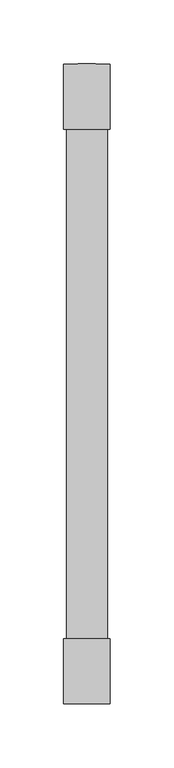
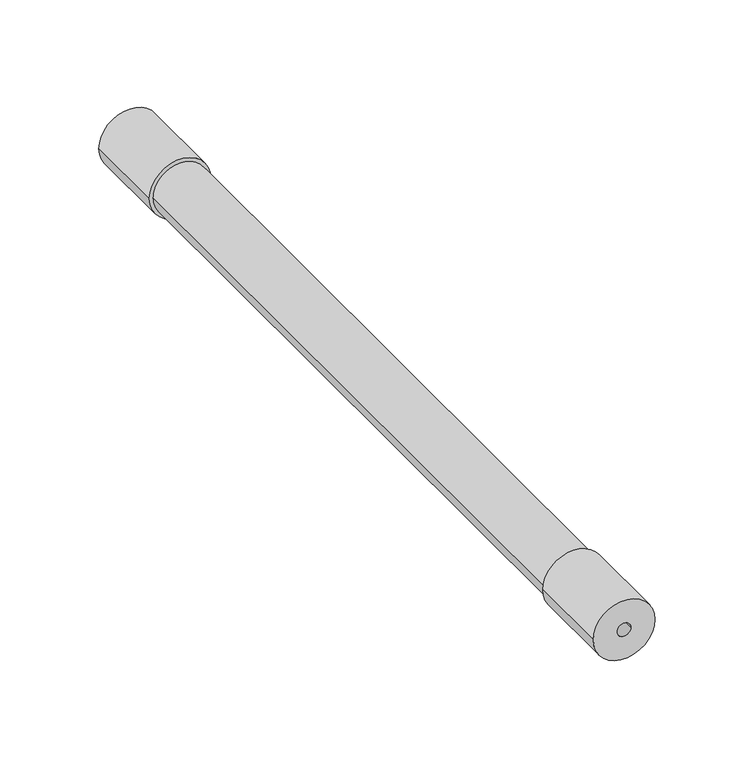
"""IFC4 building model written with IfcOpenShell, lengths in millimetres: proxy geometry, КНС_ШтангаИзоляционная_DKC : NF0500_Стеклопластик_500 мм."""

from ifc_helpers import new_model, si_unit, point, frame, origin, origin_2d, place, context, project, spatial, circle_curve, trimmed, segment, composite_curve, outline, extrude, source, transform, mapped, element, save


def security_devices_3444e8e4(model_context):
    return source(origin(), model_context, "Body", "SweptSolid", [
        extrude(outline(composite_curve([segment(trimmed(circle_curve(origin_2d(), 18.0), [point((0.0, -18.0))], [point((0.0, 18.0))], False, "CARTESIAN"), True, "CONTINUOUS"), segment(trimmed(circle_curve(origin_2d(), 18.0), [point((0.0, 18.0))], [point((0.0, -18.0))], False, "CARTESIAN"), True, "CONTINUOUS")], self_intersect=False), holes=[composite_curve([segment(trimmed(circle_curve(origin_2d(), 4.0), [point((0.0, -4.0))], [point((0.0, 4.0))], True, "CARTESIAN"), True, "CONTINUOUS"), segment(trimmed(circle_curve(origin_2d(), 4.0), [point((0.0, 4.0))], [point((0.0, -4.0))], True, "CARTESIAN"), True, "CONTINUOUS")], self_intersect=False)]), frame((0.0, 449.0, 0.0), z_axis=(0.0, 1.0, 0.0), x_axis=(0.0, 0.0, 1.0)), (0.0, 0.0, 1.0), 51.0),
        extrude(outline(composite_curve([segment(trimmed(circle_curve(origin_2d(), 16.0), [point((0.0, -16.0))], [point((0.0, 16.0))], False, "CARTESIAN"), True, "CONTINUOUS"), segment(trimmed(circle_curve(origin_2d(), 16.0), [point((0.0, 16.0))], [point((0.0, -16.0))], False, "CARTESIAN"), True, "CONTINUOUS")], self_intersect=False)), frame((0.0, 51.0, 0.0), z_axis=(0.0, 1.0, 0.0), x_axis=(0.0, 0.0, 1.0)), (0.0, 0.0, 1.0), 398.0),
        extrude(outline(composite_curve([segment(trimmed(circle_curve(origin_2d(), 18.0), [point((0.0, -18.0))], [point((0.0, 18.0))], False, "CARTESIAN"), True, "CONTINUOUS"), segment(trimmed(circle_curve(origin_2d(), 18.0), [point((0.0, 18.0))], [point((0.0, -18.0))], False, "CARTESIAN"), True, "CONTINUOUS")], self_intersect=False), holes=[composite_curve([segment(trimmed(circle_curve(origin_2d(), 4.0), [point((0.0, -4.0))], [point((0.0, 4.0))], True, "CARTESIAN"), True, "CONTINUOUS"), segment(trimmed(circle_curve(origin_2d(), 4.0), [point((0.0, 4.0))], [point((0.0, -4.0))], True, "CARTESIAN"), True, "CONTINUOUS")], self_intersect=False)]), frame((0.0, 0.0, 0.0), z_axis=(0.0, 1.0, 0.0), x_axis=(0.0, 0.0, 1.0)), (0.0, 0.0, 1.0), 51.0),
    ])


if __name__ == "__main__":
    model = new_model("IFC4")
    model_context = context("Model", 3, world=origin())
    ifc_project = project(units=[si_unit("LENGTHUNIT", "METRE", prefix="MILLI")], contexts=[model_context])
    site = spatial("IfcSite", under=ifc_project)
    building = spatial("IfcBuilding", under=site)
    placement = place(None, origin())
    security_devices_shape = security_devices_3444e8e4(model_context)
    element("IfcBuildingElementProxy", 1, Name="КНС_ШтангаИзоляционная_DKC : NF0500_Стеклопластик_500 мм", ObjectType="КНС_ШтангаИзоляционная_DKC : NF0500_Стеклопластик_500 мм", at=placement, inside=building, context=model_context, shape_type="MappedRepresentation", body=[
        mapped(security_devices_shape, transform((0.0, 0.0, 0.0), x_axis=(1.0, 0.0, 0.0), y_axis=(0.0, 1.0, 0.0), z_axis=(0.0, 0.0, 1.0))),
    ])
    save(model, "model.ifc")
